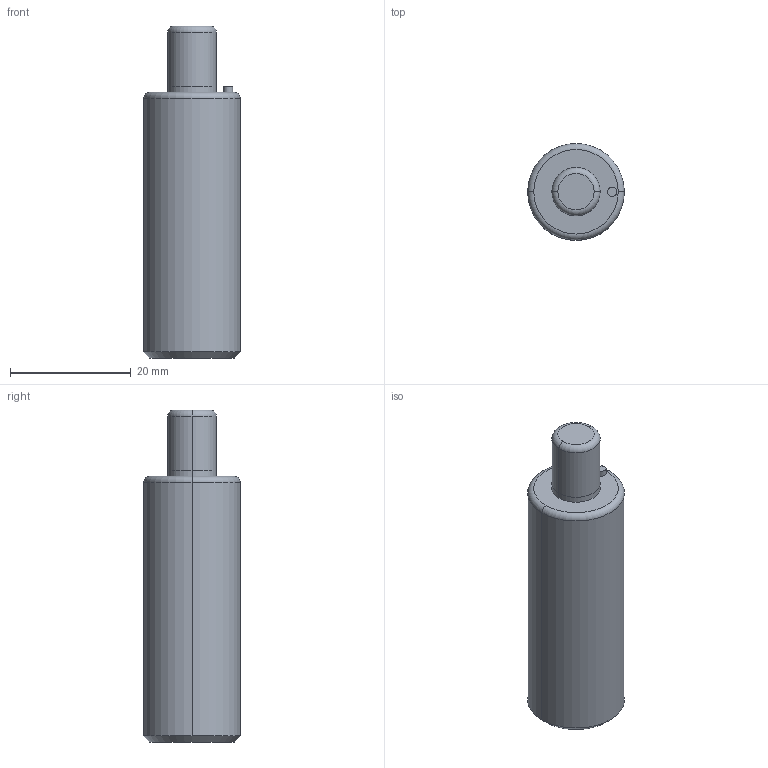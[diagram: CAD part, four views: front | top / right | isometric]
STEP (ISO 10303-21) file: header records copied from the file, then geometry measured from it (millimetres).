
FILE_DESCRIPTION(/* description */ (''),/* implementation_level */ '2;1');
FILE_NAME(/* name */ '3d_mgsc16-10_04565_r00.stp',/* time_stamp */ '2011-01-10T14:13:35+09:00',/* author */ ('MISUMI'),/* organization */ (''),/* preprocessor_version */ 'ST-DEVELOPER v11',/* originating_system */ 'UGS - NX 5.0',/* authorisation */ '');
FILE_SCHEMA (('CONFIG_CONTROL_DESIGN'));
Length unit declared in the file: millimetre
Products named in the file (1): 3d_mgsc16-10_04565_r00
Bounding box: 16 x 16 x 55 mm (x, y, z)
Volume: 9156 mm3; surface area: 2991.1 mm2
Topology: 1 solids, 1 shells, 24 faces, 48 edges, 27 vertices
Faces by surface type: cylinder 12, plane 4, torus 4, cone 4
Entity records: 698 total; most frequent: DIRECTION 126, CARTESIAN_POINT 98, ORIENTED_EDGE 92, AXIS2_PLACEMENT_3D 55, EDGE_CURVE 46, CIRCLE 30, EDGE_LOOP 27, VERTEX_POINT 27
